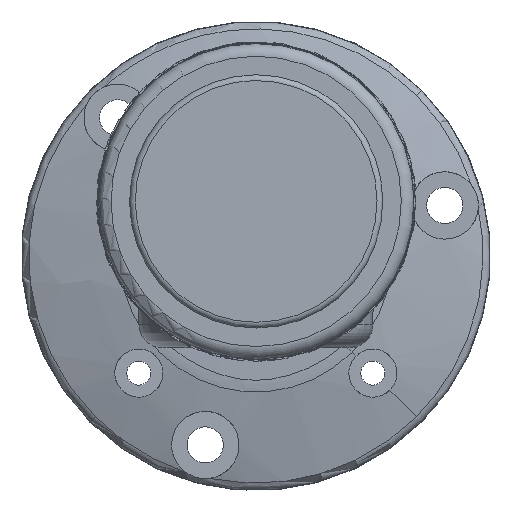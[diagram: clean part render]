
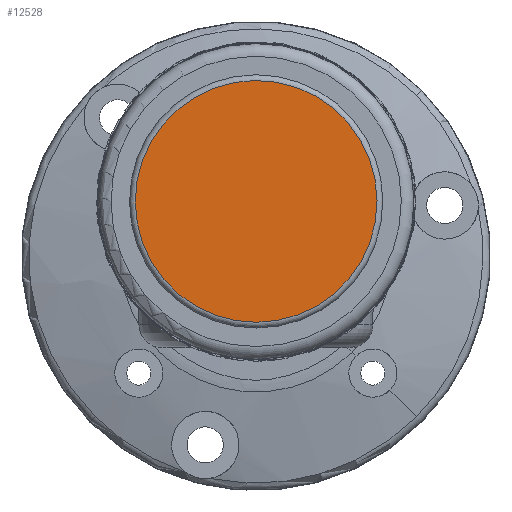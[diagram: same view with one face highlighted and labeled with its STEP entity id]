
A CAD part, front view. The second image highlights one B-rep face of the part: STEP entity #12528.
In plain terms, the highlighted planar face has unit normal (0, -1, 0).
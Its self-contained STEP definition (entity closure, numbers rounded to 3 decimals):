
#3779=FACE_OUTER_BOUND('',#17140,.T.);
#12528=ADVANCED_FACE('',(#3779),#14133,.T.);
#14133=PLANE('',#44546);
#17140=EDGE_LOOP('',(#26692));
#26692=ORIENTED_EDGE('',*,*,#38488,.T.);
#32673=VERTEX_POINT('',#86019);
#38488=EDGE_CURVE('',#32673,#32673,#41433,.T.);
#41433=CIRCLE('',#44545,20.09);
#44545=AXIS2_PLACEMENT_3D('',#86018,#52830,#52831);
#44546=AXIS2_PLACEMENT_3D('',#86020,#52832,#52833);
#52830=DIRECTION('',(0.,-1.,0.));
#52831=DIRECTION('',(0.005,0.,-1.));
#52832=DIRECTION('',(0.,-1.,0.));
#52833=DIRECTION('',(0.005,0.,-1.));
#86018=CARTESIAN_POINT('',(0.,-252.113,9.35));
#86019=CARTESIAN_POINT('',(0.1,-252.113,-10.74));
#86020=CARTESIAN_POINT('',(0.,-252.113,9.35));
